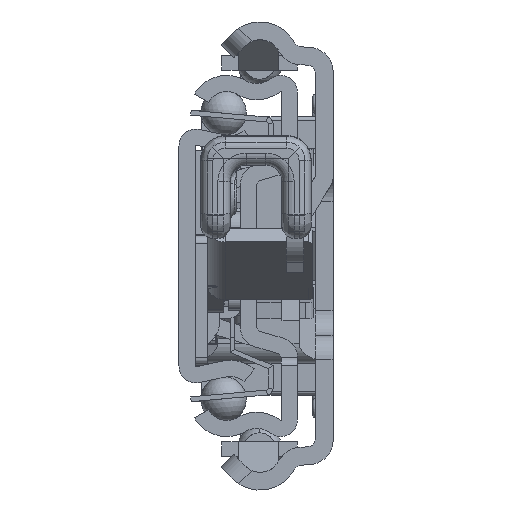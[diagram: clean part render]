
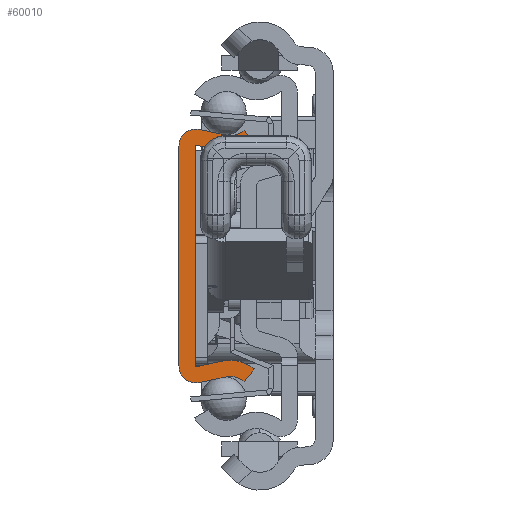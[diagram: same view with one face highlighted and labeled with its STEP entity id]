
A CAD part, left-side view. The second image highlights one B-rep face of the part: STEP entity #60010.
In plain terms, the highlighted planar face has unit normal (-1, 0, 0).
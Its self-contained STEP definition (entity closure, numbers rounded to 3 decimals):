
#54774=CARTESIAN_POINT('',(0.,-6.29,-17.65));
#54775=DIRECTION('',(-1.,0.,0.));
#54776=DIRECTION('',(0.,-0.629,0.778));
#54777=AXIS2_PLACEMENT_3D('',#54774,#54775,#54776);
#54779=DIRECTION('',(0.,0.977,-0.213));
#54780=VECTOR('',#54779,3.218);
#54781=CARTESIAN_POINT('',(0.,-5.692,-14.915));
#54782=LINE('',#54781,#54780);
#54783=CARTESIAN_POINT('',(0.,-2.1,-13.55));
#54784=DIRECTION('',(1.,0.,0.));
#54785=DIRECTION('',(0.,-0.213,-0.977));
#54786=AXIS2_PLACEMENT_3D('',#54783,#54784,#54785);
#54788=DIRECTION('',(0.,0.,1.));
#54789=VECTOR('',#54788,27.1);
#54790=CARTESIAN_POINT('',(0.,0.,-13.55));
#54791=LINE('',#54790,#54789);
#54792=CARTESIAN_POINT('',(0.,-2.1,13.55));
#54793=DIRECTION('',(1.,0.,0.));
#54794=DIRECTION('',(0.,1.,0.));
#54795=AXIS2_PLACEMENT_3D('',#54792,#54793,#54794);
#54797=DIRECTION('',(0.,-0.977,-0.213));
#54798=VECTOR('',#54797,3.218);
#54799=CARTESIAN_POINT('',(0.,-2.548,15.602));
#54800=LINE('',#54799,#54798);
#54801=CARTESIAN_POINT('',(0.,-6.29,17.65));
#54802=DIRECTION('',(-1.,0.,0.));
#54803=DIRECTION('',(0.,0.213,-0.977));
#54804=AXIS2_PLACEMENT_3D('',#54801,#54802,#54803);
#54806=DIRECTION('',(0.,-0.629,-0.778));
#54807=VECTOR('',#54806,2.);
#54808=CARTESIAN_POINT('',(0.,-8.05,15.472));
#54809=LINE('',#54808,#54807);
#54810=CARTESIAN_POINT('',(0.,-6.29,17.65));
#54811=DIRECTION('',(1.,0.,0.));
#54812=DIRECTION('',(0.,-0.629,-0.778));
#54813=AXIS2_PLACEMENT_3D('',#54810,#54811,#54812);
#54815=DIRECTION('',(0.,0.977,0.213));
#54816=VECTOR('',#54815,3.218);
#54817=CARTESIAN_POINT('',(0.,-5.265,12.961));
#54818=LINE('',#54817,#54816);
#54819=CARTESIAN_POINT('',(0.,-2.1,13.55));
#54820=DIRECTION('',(-1.,0.,0.));
#54821=DIRECTION('',(0.,-0.213,0.977));
#54822=AXIS2_PLACEMENT_3D('',#54819,#54820,#54821);
#54824=DIRECTION('',(0.,0.,-1.));
#54825=VECTOR('',#54824,27.1);
#54826=CARTESIAN_POINT('',(0.,-2.,13.55));
#54827=LINE('',#54826,#54825);
#54828=CARTESIAN_POINT('',(0.,-2.1,-13.55));
#54829=DIRECTION('',(-1.,0.,0.));
#54830=DIRECTION('',(0.,1.,0.));
#54831=AXIS2_PLACEMENT_3D('',#54828,#54829,#54830);
#54833=DIRECTION('',(0.,-0.977,0.213));
#54834=VECTOR('',#54833,3.218);
#54835=CARTESIAN_POINT('',(0.,-2.121,-13.648));
#54836=LINE('',#54835,#54834);
#54837=CARTESIAN_POINT('',(0.,-6.29,-17.65));
#54838=DIRECTION('',(1.,0.,0.));
#54839=DIRECTION('',(0.,0.213,0.977));
#54840=AXIS2_PLACEMENT_3D('',#54837,#54838,#54839);
#54842=DIRECTION('',(0.,0.629,-0.778));
#54843=VECTOR('',#54842,2.);
#54844=CARTESIAN_POINT('',(0.,-9.307,-13.917));
#54845=LINE('',#54844,#54843);
#58500=CARTESIAN_POINT('',(0.,-8.05,-15.472));
#58501=CARTESIAN_POINT('',(0.,-5.692,-14.915));
#58502=VERTEX_POINT('',#58500);
#58503=VERTEX_POINT('',#58501);
#58504=CARTESIAN_POINT('',(0.,-2.548,-15.602));
#58505=VERTEX_POINT('',#58504);
#58506=CARTESIAN_POINT('',(0.,0.,-13.55));
#58507=VERTEX_POINT('',#58506);
#58508=CARTESIAN_POINT('',(0.,0.,13.55));
#58509=VERTEX_POINT('',#58508);
#58510=CARTESIAN_POINT('',(0.,-2.548,15.602));
#58511=VERTEX_POINT('',#58510);
#58512=CARTESIAN_POINT('',(0.,-5.692,14.915));
#58513=VERTEX_POINT('',#58512);
#58514=CARTESIAN_POINT('',(0.,-8.05,15.472));
#58515=VERTEX_POINT('',#58514);
#58516=CARTESIAN_POINT('',(0.,-9.307,13.917));
#58517=VERTEX_POINT('',#58516);
#58518=CARTESIAN_POINT('',(0.,-5.265,12.961));
#58519=VERTEX_POINT('',#58518);
#58520=CARTESIAN_POINT('',(0.,-2.121,13.648));
#58521=VERTEX_POINT('',#58520);
#58522=CARTESIAN_POINT('',(0.,-2.,13.55));
#58523=VERTEX_POINT('',#58522);
#58524=CARTESIAN_POINT('',(0.,-2.,-13.55));
#58525=VERTEX_POINT('',#58524);
#58526=CARTESIAN_POINT('',(0.,-2.121,-13.648));
#58527=VERTEX_POINT('',#58526);
#58528=CARTESIAN_POINT('',(0.,-5.265,-12.961));
#58529=VERTEX_POINT('',#58528);
#58530=CARTESIAN_POINT('',(0.,-9.307,-13.917));
#58531=VERTEX_POINT('',#58530);
#59972=CARTESIAN_POINT('',(0.,0.,0.));
#59973=DIRECTION('',(1.,0.,0.));
#59974=DIRECTION('',(0.,-1.,0.));
#59975=AXIS2_PLACEMENT_3D('',#59972,#59973,#59974);
#59976=PLANE('',#59975);
#59978=ORIENTED_EDGE('',*,*,#59977,.T.);
#59980=ORIENTED_EDGE('',*,*,#59979,.T.);
#59982=ORIENTED_EDGE('',*,*,#59981,.T.);
#59983=ORIENTED_EDGE('',*,*,#59560,.T.);
#59985=ORIENTED_EDGE('',*,*,#59984,.T.);
#59987=ORIENTED_EDGE('',*,*,#59986,.T.);
#59989=ORIENTED_EDGE('',*,*,#59988,.T.);
#59991=ORIENTED_EDGE('',*,*,#59990,.T.);
#59993=ORIENTED_EDGE('',*,*,#59992,.T.);
#59995=ORIENTED_EDGE('',*,*,#59994,.T.);
#59997=ORIENTED_EDGE('',*,*,#59996,.T.);
#59999=ORIENTED_EDGE('',*,*,#59998,.T.);
#60001=ORIENTED_EDGE('',*,*,#60000,.T.);
#60003=ORIENTED_EDGE('',*,*,#60002,.T.);
#60005=ORIENTED_EDGE('',*,*,#60004,.T.);
#60007=ORIENTED_EDGE('',*,*,#60006,.T.);
#60008=EDGE_LOOP('',(#59978,#59980,#59982,#59983,#59985,#59987,#59989,#59991,
#59993,#59995,#59997,#59999,#60001,#60003,#60005,#60007));
#60009=FACE_OUTER_BOUND('',#60008,.F.);
#54778=CIRCLE('',#54777,2.8);
#54787=CIRCLE('',#54786,2.1);
#54796=CIRCLE('',#54795,2.1);
#54805=CIRCLE('',#54804,2.8);
#54814=CIRCLE('',#54813,4.8);
#54823=CIRCLE('',#54822,0.1);
#54832=CIRCLE('',#54831,0.1);
#54841=CIRCLE('',#54840,4.8);
#59560=EDGE_CURVE('',#58507,#58509,#54791,.T.);
#59977=EDGE_CURVE('',#58502,#58503,#54778,.T.);
#59979=EDGE_CURVE('',#58503,#58505,#54782,.T.);
#59981=EDGE_CURVE('',#58505,#58507,#54787,.T.);
#59984=EDGE_CURVE('',#58509,#58511,#54796,.T.);
#59986=EDGE_CURVE('',#58511,#58513,#54800,.T.);
#59988=EDGE_CURVE('',#58513,#58515,#54805,.T.);
#59990=EDGE_CURVE('',#58515,#58517,#54809,.T.);
#59992=EDGE_CURVE('',#58517,#58519,#54814,.T.);
#59994=EDGE_CURVE('',#58519,#58521,#54818,.T.);
#59996=EDGE_CURVE('',#58521,#58523,#54823,.T.);
#59998=EDGE_CURVE('',#58523,#58525,#54827,.T.);
#60000=EDGE_CURVE('',#58525,#58527,#54832,.T.);
#60002=EDGE_CURVE('',#58527,#58529,#54836,.T.);
#60004=EDGE_CURVE('',#58529,#58531,#54841,.T.);
#60006=EDGE_CURVE('',#58531,#58502,#54845,.T.);
#60010=ADVANCED_FACE('',(#60009),#59976,.F.);
